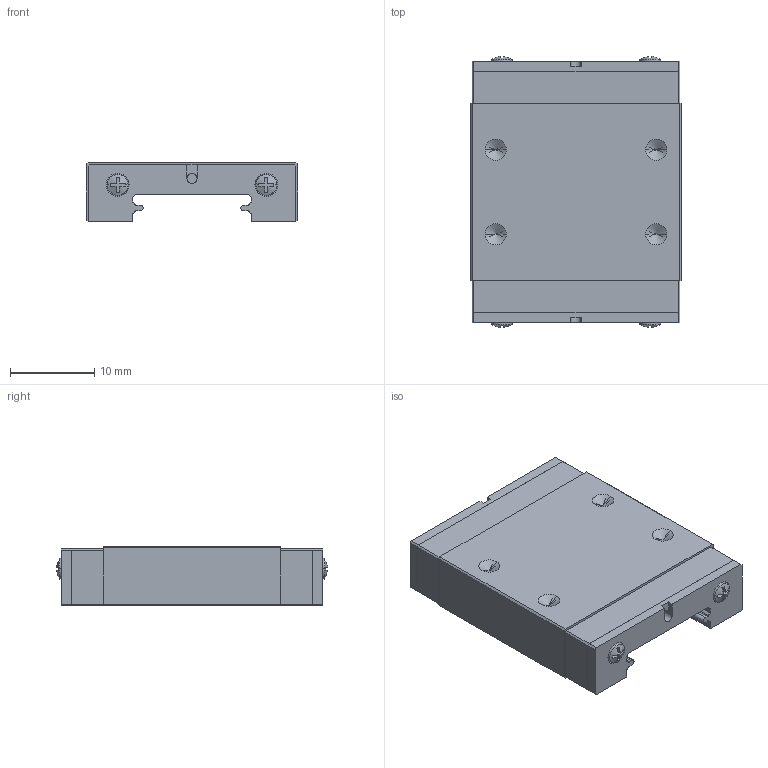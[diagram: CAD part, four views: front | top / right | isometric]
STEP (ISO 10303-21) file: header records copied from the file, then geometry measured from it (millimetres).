
FILE_DESCRIPTION(('no description'),'unknown implementation level');
FILE_NAME('MGW07C_ZF_H_M_SS_49.stp',' ',('HIWIN GmbH'),('CADClick - KiM GmbH - www.kimweb.de'),'unknown preprocess','ACIS','unknown authorization');
FILE_SCHEMA(('automotive_design'));
Length unit declared in the file: millimetre
Products named in the file (1): MGW07C ZF H M SS
Bounding box: 25 x 32.19 x 7.1 mm (x, y, z)
Volume: 4013.2 mm3; surface area: 2630.2 mm2
Topology: 1 solids, 3 shells, 202 faces, 544 edges, 352 vertices
Faces by surface type: plane 130, cylinder 44, cone 28
Entity records: 12248 total; most frequent: CARTESIAN_POINT 1203, STYLED_ITEM 1091, PRESENTATION_STYLE_ASSIGNMENT 1091, COLOUR_RGB 1091, ORIENTED_EDGE 1072, DIRECTION 994, EDGE_CURVE 536, CURVE_STYLE 536
